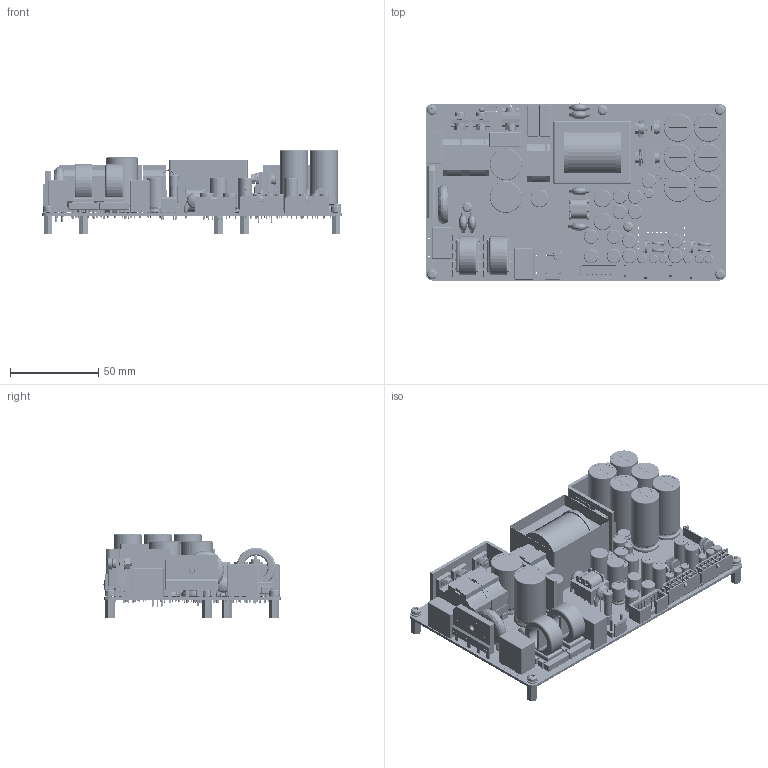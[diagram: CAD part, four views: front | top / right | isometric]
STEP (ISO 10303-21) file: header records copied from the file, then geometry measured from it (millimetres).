
FILE_DESCRIPTION (( 'STEP AP214' ), '1' );
FILE_NAME ('PS500DIY_01xx.STEP', '2023-11-06T15:06:02', ( '' ), ( '' ), 'SwSTEP 2.0', 'SolidWorks 2023', '' );
FILE_SCHEMA (( 'AUTOMOTIVE_DESIGN' ));
Length unit declared in the file: millimetre
Products named in the file (1): PS500DIY_01xx
Bounding box: 170 x 100.25 x 47.1 mm (x, y, z)
Surface area: 161748 mm2 (no closed solid volume)
Topology: 0 solids, 170 shells, 13677 faces, 33370 edges, 19730 vertices
Faces by surface type: bspline 4597, plane 4044, cylinder 4001, cone 754, torus 178, sphere 103
Entity records: 688796 total; most frequent: CARTESIAN_POINT 402531, ORIENTED_EDGE 65313, DIRECTION 49520, EDGE_CURVE 32670, VERTEX_POINT 19729, AXIS2_PLACEMENT_3D 17622, EDGE_LOOP 14704, LINE 14276
